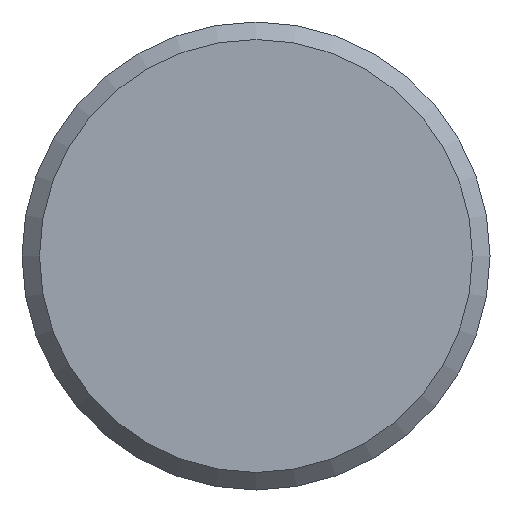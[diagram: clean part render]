
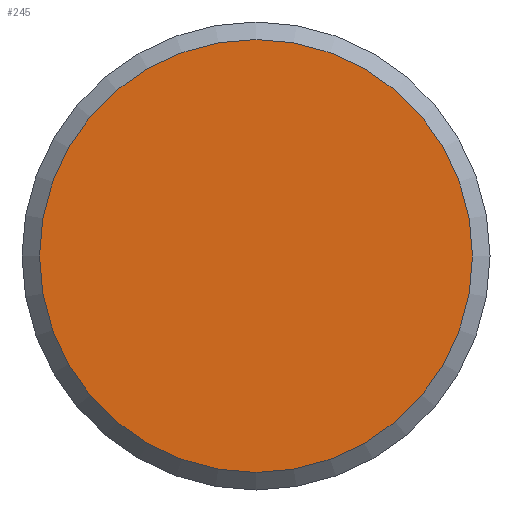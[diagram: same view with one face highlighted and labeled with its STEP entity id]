
A CAD part, front view. The second image highlights one B-rep face of the part: STEP entity #245.
In plain terms, the highlighted planar face has unit normal (0, -1, 0).
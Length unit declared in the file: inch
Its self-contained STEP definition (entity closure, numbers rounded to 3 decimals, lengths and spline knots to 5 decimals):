
#17=CIRCLE('',#271,0.76);
#35=FACE_OUTER_BOUND('',#48,.T.);
#48=EDGE_LOOP('',(#199));
#116=VERTEX_POINT('',#416);
#147=EDGE_CURVE('',#116,#116,#17,.T.);
#199=ORIENTED_EDGE('',*,*,#147,.F.);
#234=PLANE('',#277);
#245=ADVANCED_FACE('',(#35),#234,.T.);
#271=AXIS2_PLACEMENT_3D('',#417,#312,#313);
#277=AXIS2_PLACEMENT_3D('',#429,#326,#327);
#312=DIRECTION('center_axis',(0.,1.,0.));
#313=DIRECTION('ref_axis',(0.,0.,1.));
#326=DIRECTION('center_axis',(0.,-1.,0.));
#327=DIRECTION('ref_axis',(0.,0.,-1.));
#416=CARTESIAN_POINT('',(0.,0.,-0.76));
#417=CARTESIAN_POINT('Origin',(0.,0.,0.));
#429=CARTESIAN_POINT('Origin',(0.,0.,0.));
